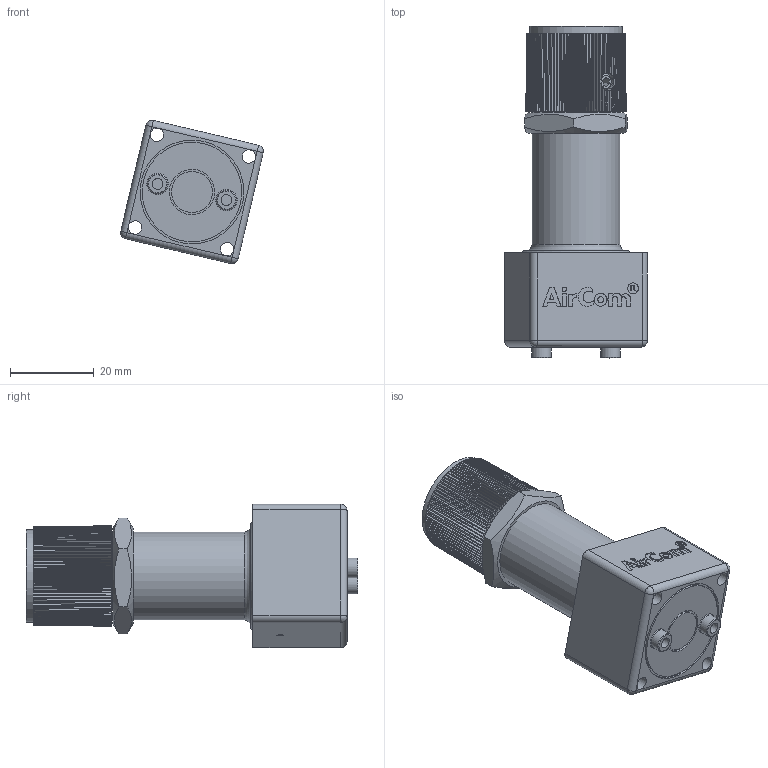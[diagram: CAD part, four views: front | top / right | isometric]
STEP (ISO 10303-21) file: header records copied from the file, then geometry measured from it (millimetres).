
FILE_DESCRIPTION((''),'2;1');
FILE_NAME('U:\AirCom-Produktdokumentation\Druckregler\R900\Zeichnungen\CAD-Aircom\3D\B-R900-MWK.stp','2012-01-30T14:29:49',('frank schroers'),(''),'Autodesk Inventor 2008','Autodesk Inventor 2008','');
FILE_SCHEMA(('AUTOMOTIVE_DESIGN { 1 0 10303 214 1 1 1 1 }'));
Length unit declared in the file: millimetre
Products named in the file (6): B-R900-xxMWK; B-V900-Knopf-WK; AS 1421 Ringschneide - Metrisch M4 x 8 Ringschneide; DIN EN 28675 M10 x 1; ISO 4035 M16; B-V900-Gehaeuse-MWOS
Assembly tree (6 placements, depth 2):
  B-R900-xxMWK
    B-V900-Knopf-WK
    AS 1421 Ringschneide - Metrisch M4 x 8 Ringschneide  x2
    DIN EN 28675 M10 x 1
    ISO 4035 M16
    B-V900-Gehaeuse-MWOS
Bounding box: 34.08 x 79.24 x 34.23 mm (x, y, z)
Volume: 38682 mm3; surface area: 14085.5 mm2
Topology: 6 solids, 6 shells, 548 faces, 1470 edges, 959 vertices
Faces by surface type: plane 358, cone 129, cylinder 50, bspline 5, sphere 4, torus 2
Full cylindrical faces by diameter (mm): 1.131 x1, 1.5 x1, 2.6 x2, 2.631 x1, 3.2 x4, 4 x2, 4.3 x2, 4.7 x2, 6.33 x1, 6.4 x1, 8.917 x1, 9.8 x1, 10.8 x1, 11 x1, 13.835 x1, 14.1 x1, 16.7 x1, 18.9 x1, 20 x1, 21 x1, 22.25 x1, 23.8 x1, 24.8 x1
Entity records: 17620 total; most frequent: CARTESIAN_POINT 4077, ORIENTED_EDGE 2754, DIRECTION 2585, EDGE_CURVE 1377, VERTEX_POINT 934, AXIS2_PLACEMENT_3D 919, VECTOR 747, LINE 747
